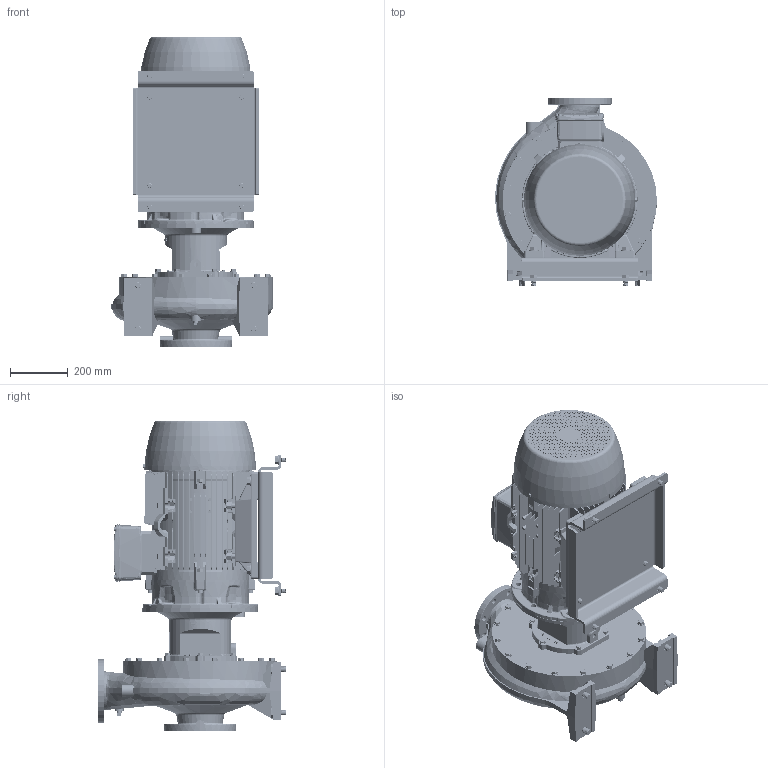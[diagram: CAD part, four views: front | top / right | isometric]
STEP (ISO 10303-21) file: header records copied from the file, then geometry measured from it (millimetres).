
FILE_DESCRIPTION (( 'STEP AP214' ), '1' );
FILE_NAME ('GSD4 100-400_30_(200ML)_W21.STEP', '2026-07-01T05:20:51', ( '' ), ( '' ), 'SwSTEP 2.0', 'SolidWorks 2024', '' );
FILE_SCHEMA (( 'AUTOMOTIVE_DESIGN' ));
Length unit declared in the file: millimetre
Products named in the file (12): GSD4 100-400_30_(200ML)_W21; Parametric bolt_SFT-A403B; Parametric Flat Washer_M20; Parametric Flat Washer_M16; Parametric bolt and washer_SFT-A359B; 100-400-200M_L_ﾃﾞﾌｫﾙﾄ; Parametric bolt_SFT-A351B; Parametric bolt and washer_SFT-A403B; Parametric bolt and washer_SFT-A351B; Parametric bolt_SFT-A359B; 200M_L ALIE3_W21T_B35; CGS11-5273
Assembly tree (21 placements, depth 3):
  GSD4 100-400_30_(200ML)_W21
    100-400-200M_L_ﾃﾞﾌｫﾙﾄ
    CGS11-5273
    Parametric bolt and washer_SFT-A403B  x4
      Parametric bolt_SFT-A403B
      Parametric Flat Washer_M20
    Parametric bolt and washer_SFT-A351B  x4
      Parametric bolt_SFT-A351B
      Parametric Flat Washer_M16
    Parametric bolt and washer_SFT-A359B  x4
      Parametric bolt_SFT-A359B
      Parametric Flat Washer_M16
    200M_L ALIE3_W21T_B35
Bounding box: 559 x 653 x 1073.8 mm (x, y, z)
Volume: 112798523.8 mm3; surface area: 5370107.8 mm2
Topology: 56 solids, 66 shells, 7568 faces, 19496 edges, 12538 vertices
Faces by surface type: plane 4403, cylinder 1403, bspline 933, cone 660, torus 169
Entity records: 283522 total; most frequent: CARTESIAN_POINT 124133, ORIENTED_EDGE 35528, DIRECTION 28723, EDGE_CURVE 17764, VERTEX_POINT 11467, LINE 11023, VECTOR 11023, AXIS2_PLACEMENT_3D 8850
